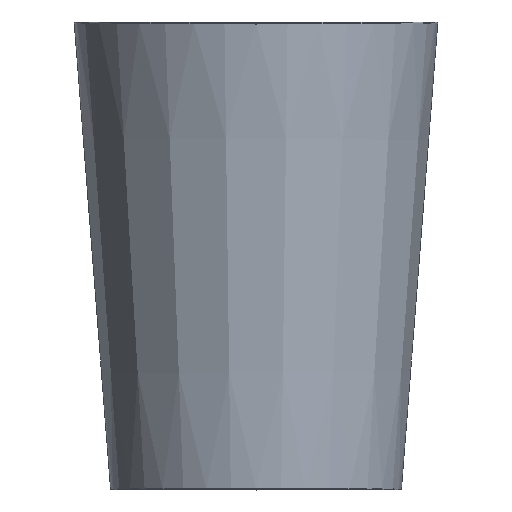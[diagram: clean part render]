
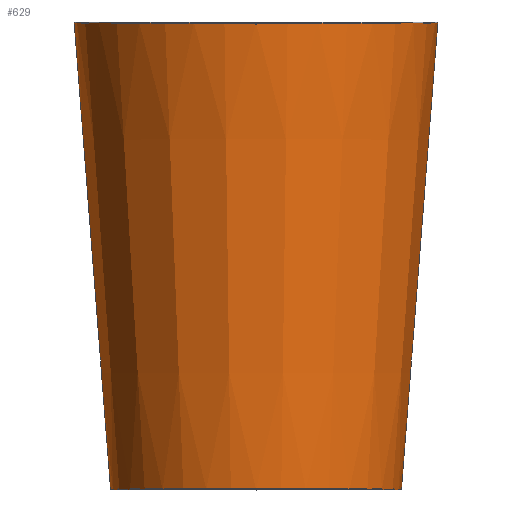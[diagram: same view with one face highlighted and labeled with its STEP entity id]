
A CAD part, top view. The second image highlights one B-rep face of the part: STEP entity #629.
In plain terms, the highlighted conical face has half-angle 4.453 degrees and reference radius 250 mm.
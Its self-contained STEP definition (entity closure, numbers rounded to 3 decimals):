
#14=CONICAL_SURFACE('',#749,250.,0.078);
#75=LINE('',#1286,#94);
#94=VECTOR('',#960,250.);
#169=FACE_OUTER_BOUND('',#223,.T.);
#223=EDGE_LOOP('',(#560,#561,#562,#563));
#270=CIRCLE('',#746,200.);
#271=CIRCLE('',#748,250.);
#325=VERTEX_POINT('',#1280);
#326=VERTEX_POINT('',#1283);
#403=EDGE_CURVE('',#325,#325,#270,.T.);
#404=EDGE_CURVE('',#326,#326,#271,.T.);
#405=EDGE_CURVE('',#325,#326,#75,.T.);
#560=ORIENTED_EDGE('',*,*,#403,.T.);
#561=ORIENTED_EDGE('',*,*,#405,.T.);
#562=ORIENTED_EDGE('',*,*,#404,.T.);
#563=ORIENTED_EDGE('',*,*,#405,.F.);
#629=ADVANCED_FACE('',(#169),#14,.T.);
#746=AXIS2_PLACEMENT_3D('',#1281,#952,#953);
#748=AXIS2_PLACEMENT_3D('',#1284,#956,#957);
#749=AXIS2_PLACEMENT_3D('',#1285,#958,#959);
#952=DIRECTION('center_axis',(0.,1.,0.));
#953=DIRECTION('ref_axis',(1.,0.,0.));
#956=DIRECTION('center_axis',(0.,-1.,0.));
#957=DIRECTION('ref_axis',(1.,0.,0.));
#958=DIRECTION('center_axis',(0.,1.,0.));
#959=DIRECTION('ref_axis',(1.,0.,0.));
#960=DIRECTION('',(-0.078,0.997,0.));
#1280=CARTESIAN_POINT('',(-200.,471.,0.));
#1281=CARTESIAN_POINT('Origin',(0.,471.,0.));
#1283=CARTESIAN_POINT('',(-250.,1113.,0.));
#1284=CARTESIAN_POINT('Origin',(0.,1113.,0.));
#1285=CARTESIAN_POINT('Origin',(0.,1113.,0.));
#1286=CARTESIAN_POINT('',(-250.,1113.,0.));
